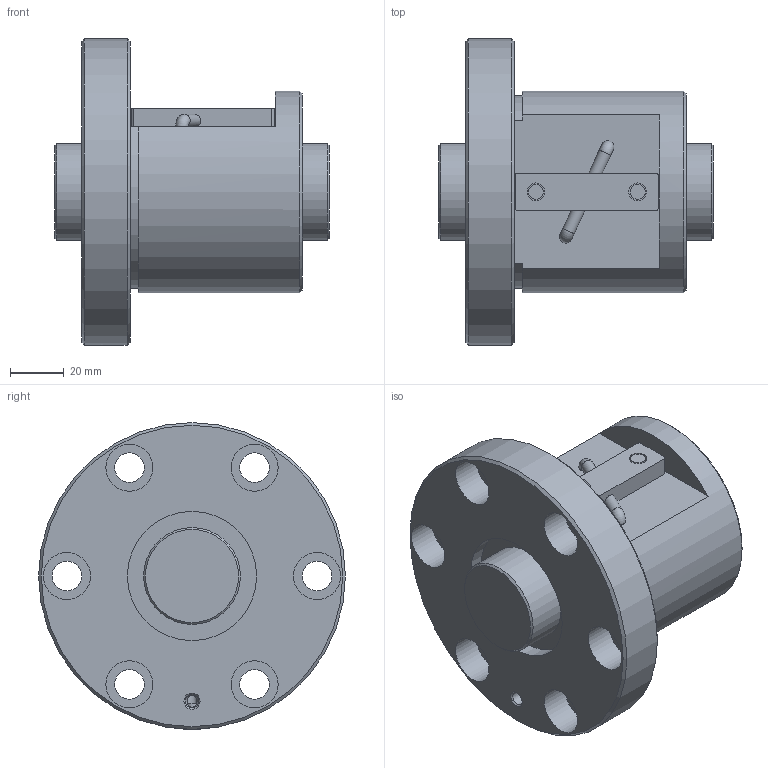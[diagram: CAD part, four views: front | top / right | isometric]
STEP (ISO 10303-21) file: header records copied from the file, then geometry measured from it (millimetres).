
FILE_DESCRIPTION(/* description */ ('STEP AP203'),/* implementation_level */ '2;1');
FILE_NAME(/* name */ 'BNF3620V-1.5RRG1+102LC0_000_rev',/* time_stamp */ '2024-08-06T08:40:38+02:00',/* author */ ('License CC BY-ND 4.0'),/* organization */ ('CADENAS'),/* preprocessor_version */ 'ST-DEVELOPER v19.3',/* originating_system */ 'PARTsolutions',/* authorisation */ ' ');
FILE_SCHEMA (('CONFIG_CONTROL_DESIGN'));
Length unit declared in the file: millimetre
Products named in the file (3): BNF3620V-1.5RRG1+102LC0_000_rev; BNF 3620-1.5RR000 Shaft; BNF 3620-1.5RR Nut
Assembly tree (2 placements, depth 2):
  BNF3620V-1.5RRG1+102LC0_000_rev
    BNF 3620-1.5RR000 Shaft
    BNF 3620-1.5RR Nut
Bounding box: 102 x 114 x 114 mm (x, y, z)
Volume: 433359.6 mm3; surface area: 69617.5 mm2
Topology: 2 solids, 2 shells, 69 faces, 148 edges, 96 vertices
Faces by surface type: cylinder 33, plane 27, cone 7, torus 2
Full cylindrical faces by diameter (mm): 4.5 x2, 4.665 x2, 4.917 x1, 5.6 x2, 6.6 x2, 11 x6, 17.5 x6, 36 x2, 48 x2, 75 x1, 114 x1
Entity records: 1755 total; most frequent: DIRECTION 312, CARTESIAN_POINT 296, ORIENTED_EDGE 200, AXIS2_PLACEMENT_3D 144, EDGE_LOOP 140, FACE_BOUND 140, EDGE_CURVE 100, VERTEX_POINT 86
